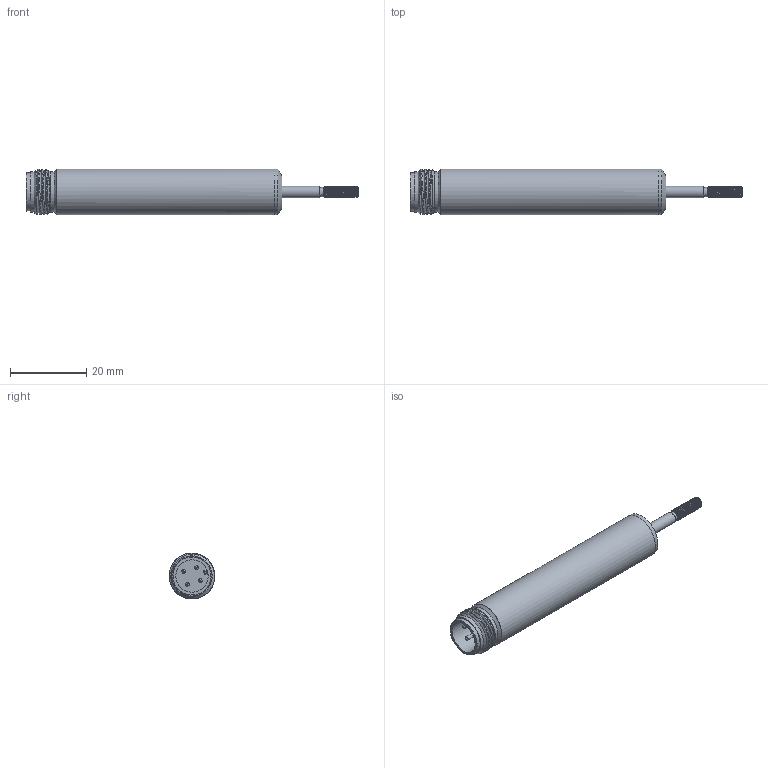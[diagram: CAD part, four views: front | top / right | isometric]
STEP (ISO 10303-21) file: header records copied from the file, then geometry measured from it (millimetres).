
FILE_DESCRIPTION( ( 'STEP AP214' ), '1' );
FILE_NAME( 'N:/Engineering/CAD_Solid/LVDT/SM/Kunden-3D-Modell/SM2-SG-SA.stp', '2011-12-12T13:23:42', ( ' ' ), ( ' ' ), 'XStep 1.0', ' ', ' ' );
FILE_SCHEMA( ( 'CONFIG_CONTROL_DESIGN) ( )' ) );
Length unit declared in the file: metre
Products named in the file (2): 1; 2
Bounding box: 87.1 x 12 x 12 mm (x, y, z)
Surface area: 3468.3 mm2 (no closed solid volume)
Topology: 0 solids, 49 shells, 50 faces, 199 edges, 176 vertices
Faces by surface type: cylinder 21, plane 11, cone 9, bspline 8, torus 1
Full cylindrical faces by diameter (mm): 1 x4, 2.4 x1, 3 x1, 8.5 x1, 10 x1, 10.6 x2, 12 x2
Entity records: 5675 total; most frequent: CARTESIAN_POINT 3895, DIRECTION 300, ORIENTED_EDGE 162, EDGE_CURVE 162, VERTEX_POINT 162, AXIS2_PLACEMENT_3D 133, CIRCLE 90, FACE_BOUND 80
